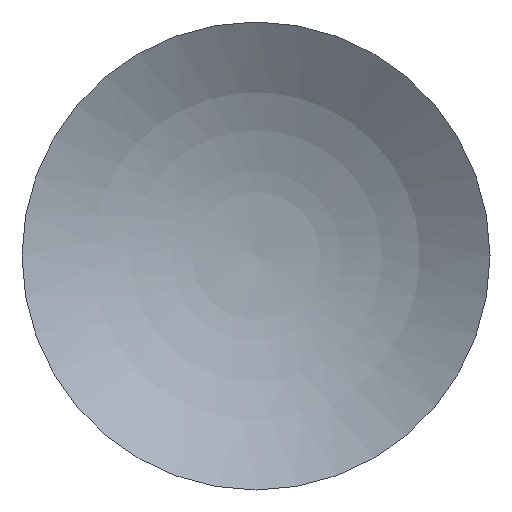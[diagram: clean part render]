
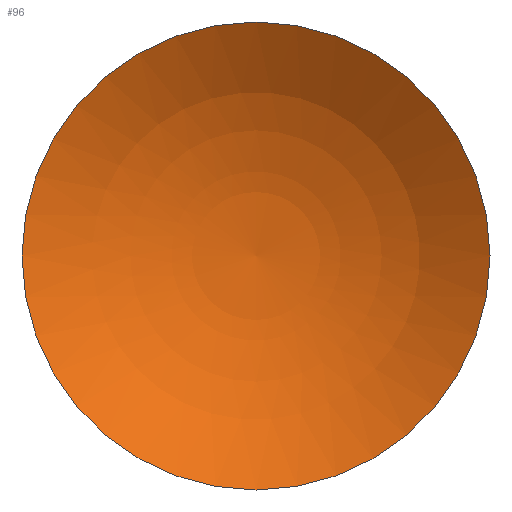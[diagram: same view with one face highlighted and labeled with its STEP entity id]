
A CAD part, front view. The second image highlights one B-rep face of the part: STEP entity #96.
In plain terms, the highlighted free-form (B-spline) face has degree [2, 2] with [3, 3] control points.
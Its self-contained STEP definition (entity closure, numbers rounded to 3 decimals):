
#68=CARTESIAN_POINT('',(6.121,-6.334,-7.5));
#69=CARTESIAN_POINT('',(9.189,-2.,0.0));
#70=CARTESIAN_POINT('',(6.121,-6.334,7.5));
#71=CARTESIAN_POINT('',(0.,-2.,-7.5));
#72=CARTESIAN_POINT('',(0.0,4.506,0.0));
#73=CARTESIAN_POINT('',(0.,-2.,7.5));
#74=CARTESIAN_POINT('',(-6.121,-6.334,-7.5));
#75=CARTESIAN_POINT('',(-9.189,-2.,0.0));
#76=CARTESIAN_POINT('',(-6.121,-6.334,7.5));
#84=(BOUNDED_SURFACE()B_SPLINE_SURFACE(2,2,((#68,#71,#74),(#69,#72,#75),(#70,#73,#76)),.UNSPECIFIED.,.F.,.F.,.U.)B_SPLINE_SURFACE_WITH_KNOTS((3,3),(3,3),(-0.616,0.616),(0.0,1.232),.UNSPECIFIED.)GEOMETRIC_REPRESENTATION_ITEM()RATIONAL_B_SPLINE_SURFACE(((1.0,0.816,1.0),(0.816,0.666,0.816),(1.0,0.816,1.0)))REPRESENTATION_ITEM('')SURFACE());
#85=CARTESIAN_POINT('',(-7.5,-4.386,0.0));
#86=VERTEX_POINT('',#85);
#87=CARTESIAN_POINT('',(0.0,-4.386,0.0));
#88=DIRECTION('',(0.0,1.0,0.0));
#89=DIRECTION('',(-1.0,0.0,0.0));
#90=AXIS2_PLACEMENT_3D('',#87,#88,#89);
#91=CIRCLE('',#90,7.5);
#92=EDGE_CURVE('',#86,#86,#91,.T.);
#93=ORIENTED_EDGE('',*,*,#92,.F.);
#94=EDGE_LOOP('',(#93));
#95=FACE_OUTER_BOUND('',#94,.T.);
#96=ADVANCED_FACE('',(#95),#84,.T.);
